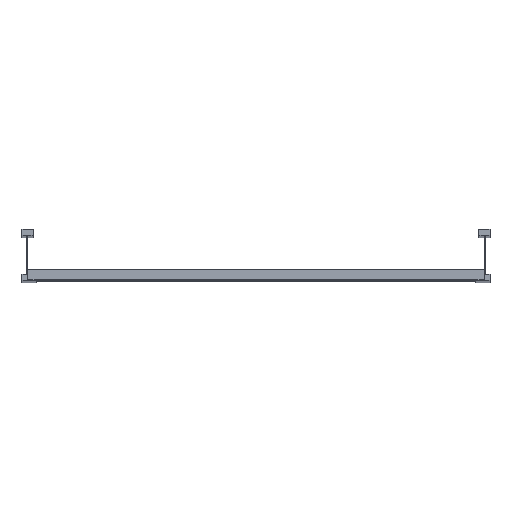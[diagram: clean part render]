
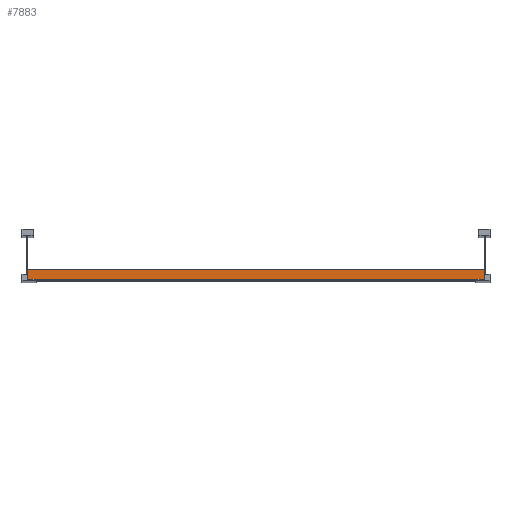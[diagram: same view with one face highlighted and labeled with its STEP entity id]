
A CAD part, top view. The second image highlights one B-rep face of the part: STEP entity #7883.
In plain terms, the highlighted planar face has unit normal (0, 0, 1).
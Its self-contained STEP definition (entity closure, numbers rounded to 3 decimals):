
#121 = ORIENTED_EDGE ( 'NONE', *, *, #713, .T. ) ;
#266 = ORIENTED_EDGE ( 'NONE', *, *, #1301, .F. ) ;
#616 = CARTESIAN_POINT ( 'NONE',  ( 448.5, 20., 20.25 ) ) ;
#621 = VECTOR ( 'NONE', #5971, 1000. ) ;
#713 = EDGE_CURVE ( 'NONE', #969, #6945, #1929, .T. ) ;
#918 = VECTOR ( 'NONE', #11635, 1000. ) ;
#969 = VERTEX_POINT ( 'NONE', #10632 ) ;
#1107 = FACE_OUTER_BOUND ( 'NONE', #6629, .T. ) ;
#1282 = VERTEX_POINT ( 'NONE', #4915 ) ;
#1301 = EDGE_CURVE ( 'NONE', #1282, #6945, #9497, .T. ) ;
#1436 = CARTESIAN_POINT ( 'NONE',  ( 448.5, 0., 20.25 ) ) ;
#1535 = EDGE_CURVE ( 'NONE', #5350, #969, #7196, .T. ) ;
#1872 = CARTESIAN_POINT ( 'NONE',  ( -448.5, 20., 20.25 ) ) ;
#1929 = LINE ( 'NONE', #1872, #10450 ) ;
#3588 = DIRECTION ( 'NONE',  ( 0., 1., 0. ) ) ;
#3620 = CARTESIAN_POINT ( 'NONE',  ( 448.5, 20., 20.25 ) ) ;
#3704 = PLANE ( 'NONE',  #6372 ) ;
#3763 = ORIENTED_EDGE ( 'NONE', *, *, #7825, .F. ) ;
#4706 = DIRECTION ( 'NONE',  ( 0., -1., 0. ) ) ;
#4915 = CARTESIAN_POINT ( 'NONE',  ( 448.5, 0., 20.25 ) ) ;
#5255 = CARTESIAN_POINT ( 'NONE',  ( -448.5, 0., 20.25 ) ) ;
#5344 = LINE ( 'NONE', #6343, #918 ) ;
#5350 = VERTEX_POINT ( 'NONE', #616 ) ;
#5625 = ORIENTED_EDGE ( 'NONE', *, *, #1535, .T. ) ;
#5971 = DIRECTION ( 'NONE',  ( -1., 0., 0. ) ) ;
#6258 = DIRECTION ( 'NONE',  ( -1., 0., 0. ) ) ;
#6343 = CARTESIAN_POINT ( 'NONE',  ( 448.5, 20., 20.25 ) ) ;
#6372 = AXIS2_PLACEMENT_3D ( 'NONE', #7282, #7222, #3588 ) ;
#6629 = EDGE_LOOP ( 'NONE', ( #121, #266, #3763, #5625 ) ) ;
#6945 = VERTEX_POINT ( 'NONE', #5255 ) ;
#7196 = LINE ( 'NONE', #3620, #11267 ) ;
#7222 = DIRECTION ( 'NONE',  ( 0., 0., -1. ) ) ;
#7282 = CARTESIAN_POINT ( 'NONE',  ( 448.5, 20., 20.25 ) ) ;
#7825 = EDGE_CURVE ( 'NONE', #5350, #1282, #5344, .T. ) ;
#7883 = ADVANCED_FACE ( 'NONE', ( #1107 ), #3704, .F. ) ;
#9497 = LINE ( 'NONE', #1436, #621 ) ;
#10450 = VECTOR ( 'NONE', #4706, 1000. ) ;
#10632 = CARTESIAN_POINT ( 'NONE',  ( -448.5, 20., 20.25 ) ) ;
#11267 = VECTOR ( 'NONE', #6258, 1000. ) ;
#11635 = DIRECTION ( 'NONE',  ( 0., -1., 0. ) ) ;
